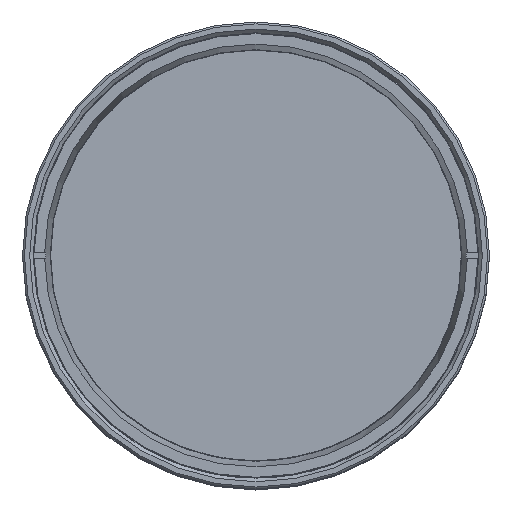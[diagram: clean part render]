
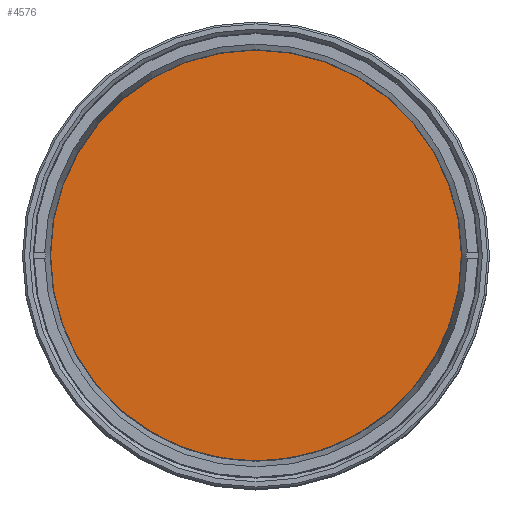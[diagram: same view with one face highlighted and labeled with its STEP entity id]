
A CAD part, top view. The second image highlights one B-rep face of the part: STEP entity #4576.
In plain terms, the highlighted planar face has unit normal (0, 0, 1).
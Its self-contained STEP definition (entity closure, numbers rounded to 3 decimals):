
#173 = DIRECTION ( 'NONE',  ( 0., 0., -1. ) ) ;
#1225 = AXIS2_PLACEMENT_3D ( 'NONE', #4864, #173, #6971 ) ;
#2551 = FACE_OUTER_BOUND ( 'NONE', #5501, .T. ) ;
#2973 = ORIENTED_EDGE ( 'NONE', *, *, #7300, .F. ) ;
#3066 = PLANE ( 'NONE',  #4076 ) ;
#4076 = AXIS2_PLACEMENT_3D ( 'NONE', #7174, #4485, #6451 ) ;
#4485 = DIRECTION ( 'NONE',  ( 0., 0., 1. ) ) ;
#4576 = ADVANCED_FACE ( 'NONE', ( #2551 ), #3066, .T. ) ;
#4864 = CARTESIAN_POINT ( 'NONE',  ( 0., 0., 249.238 ) ) ;
#5501 = EDGE_LOOP ( 'NONE', ( #2973 ) ) ;
#5633 = CIRCLE ( 'NONE', #1225, 55.1 ) ;
#6451 = DIRECTION ( 'NONE',  ( 0., -1., 0. ) ) ;
#6971 = DIRECTION ( 'NONE',  ( 0., -1., 0. ) ) ;
#7174 = CARTESIAN_POINT ( 'NONE',  ( 0., 0., 249.238 ) ) ;
#7300 = EDGE_CURVE ( 'NONE', #8557, #8557, #5633, .T. ) ;
#7535 = CARTESIAN_POINT ( 'NONE',  ( 0., -55.1, 249.238 ) ) ;
#8557 = VERTEX_POINT ( 'NONE', #7535 ) ;
